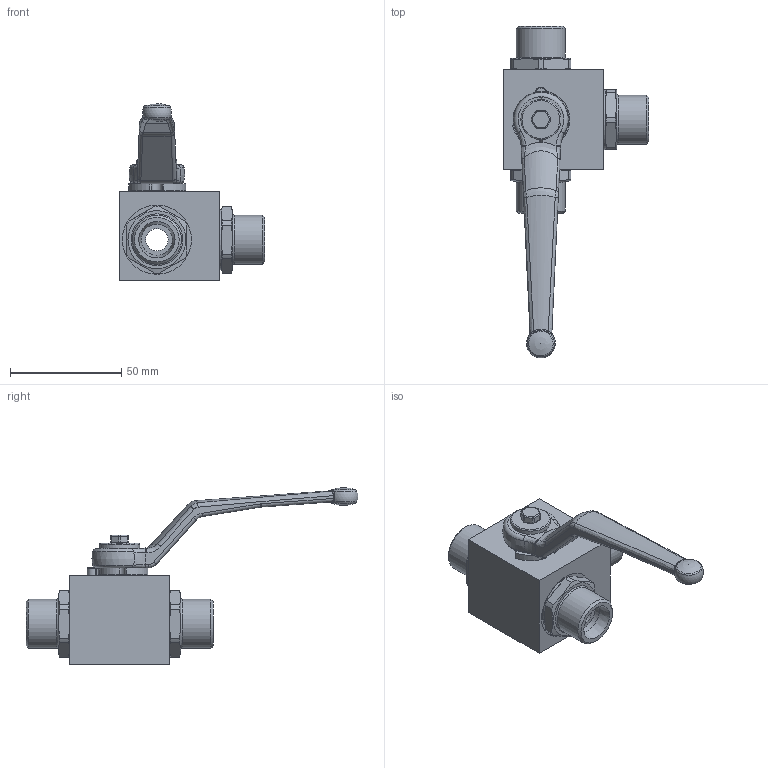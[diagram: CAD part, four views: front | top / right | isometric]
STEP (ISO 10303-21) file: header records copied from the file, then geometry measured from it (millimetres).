
FILE_DESCRIPTION( ( 'Unknown' ), '1' );
FILE_NAME( 'H:/PISTER/3D-MODELLE/BK3-Edelstahl stp/BK3-Edelst DN10 14S.stp', 'Unknown', ( 'Unknown' ), ( 'Unknown' ), 'PSStep 14.0', 'Unknown', ' ' );
FILE_SCHEMA( ( 'AUTOMOTIVE_DESIGN { 1 0 10303 214 1 1 1 1 }' ) );
Length unit declared in the file: millimetre
Products named in the file (11): Assem1; 09-09-003; 58-28740-16-oa2; 58-0440-009; 58-0933-235; 03-010-003-oa4; 04-010-062-oa5; 04-010-062-oa6; 56-032-101-oa11; Griff_SW9; 01-010-067-oa12
Assembly tree (10 placements, depth 2):
  Assem1
    09-09-003
    58-28740-16-oa2
    58-0440-009
    58-0933-235
    03-010-003-oa4
    04-010-062-oa5
    04-010-062-oa6
    56-032-101-oa11
    Griff_SW9
    01-010-067-oa12
Bounding box: 65.5 x 149 x 79.3 mm (x, y, z)
Volume: 86418.3 mm3; surface area: 34654.9 mm2
Topology: 10 solids, 10 shells, 358 faces, 888 edges, 558 vertices
Faces by surface type: plane 121, cylinder 118, cone 42, torus 37, bspline 36, sphere 4
Full cylindrical faces by diameter (mm): 4.2 x1, 4.98 x1, 5 x1, 5.8 x1, 10 x3, 14 x5, 18 x1, 21.1 x1, 22 x3, 22.376 x1, 22.5 x1, 24 x1, 24.35 x1, 25 x2, 27 x3, 31 x3
Entity records: 14827 total; most frequent: CARTESIAN_POINT 4043, DIRECTION 1637, ORIENTED_EDGE 1582, EDGE_CURVE 791, AXIS2_PLACEMENT_3D 672, VERTEX_POINT 526, EDGE_LOOP 450, FACE_OUTER_BOUND 400
